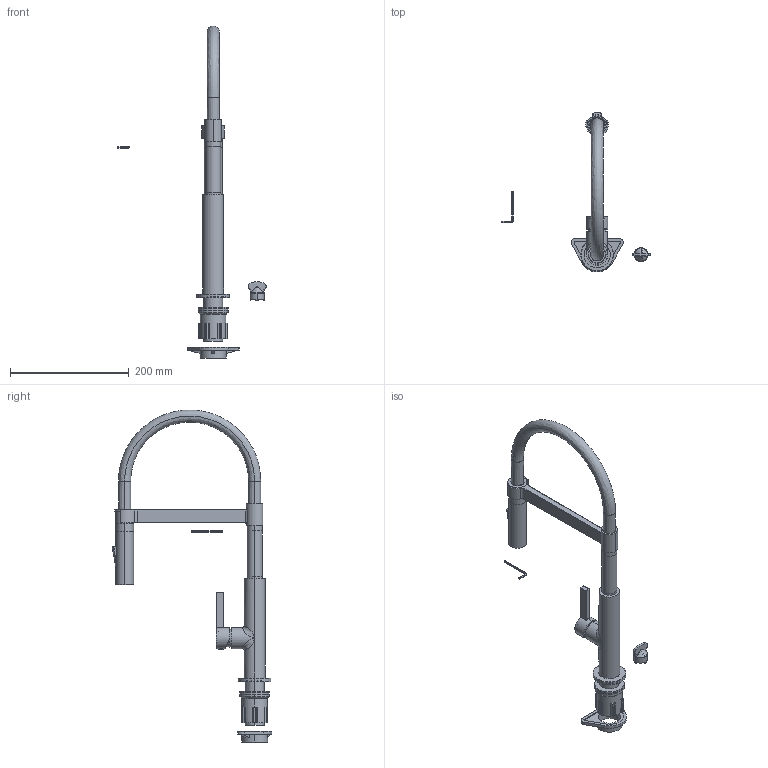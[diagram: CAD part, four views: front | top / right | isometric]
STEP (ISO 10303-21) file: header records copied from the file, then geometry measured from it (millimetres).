
FILE_DESCRIPTION((''),'2;1');
FILE_NAME('5A50550-24ACP-019_ASM','2023-05-29T09:16:00',('Administrator'),('Globeunion.com'),'CREO PARAMETRIC BY PTC INC, 2017380','CREO PARAMETRIC BY PTC INC, 2017380','');
FILE_SCHEMA(('CONFIG_CONTROL_DESIGN'));
Length unit declared in the file: millimetre
Products named in the file (36): 1187918050; 4180161750; 4180161820; 4180601150Q; 41804510; 4180370950; 55023019015; 55021018013; 40704742J; L40060-27GRB; 5401901120; 312507; 4060052520; 5101520_AF0; 5101615; 5202220_AF0; 4060042650; 212501350TB; 4180451850; 41001701; 40702902; P10930-03CPB; 40301503; 5205330; 5404903425; 41804304; 40101402; 40104301; 40600219; 40100302; 41806304; 40706301; 4060431550; 40600236; 41800602; 5A50550-24ACP-019_ASM
Assembly tree (35 placements, depth 2):
  5A50550-24ACP-019_ASM
    1187918050
    4180161750
    4180161820
    4180601150Q
    41804510
    4180370950
    55023019015
    55021018013
    40704742J
    L40060-27GRB
    5401901120
    312507
    4060052520
    5101520_AF0
    5101615
    5202220_AF0
    4060042650
    212501350TB
    4180451850
    41001701
    40702902
    P10930-03CPB
    40301503
    5205330
    5404903425
    41804304
    40101402
    40104301
    40600219
    40100302
    41806304
    40706301
    4060431550
    40600236
    41800602
Bounding box: 249.29 x 268.13 x 558.15 mm (x, y, z)
Volume: 405029.5 mm3; surface area: 284464 mm2
Topology: 38 solids, 39 shells, 3253 faces, 8859 edges, 5746 vertices
Faces by surface type: plane 1430, cylinder 1390, bspline 173, torus 128, cone 120, sphere 12
Entity records: 126934 total; most frequent: CARTESIAN_POINT 43010, ORIENTED_EDGE 17686, DIRECTION 16237, EDGE_CURVE 8843, VERTEX_POINT 5746, AXIS2_PLACEMENT_3D 5565, VECTOR 5107, LINE 5107
